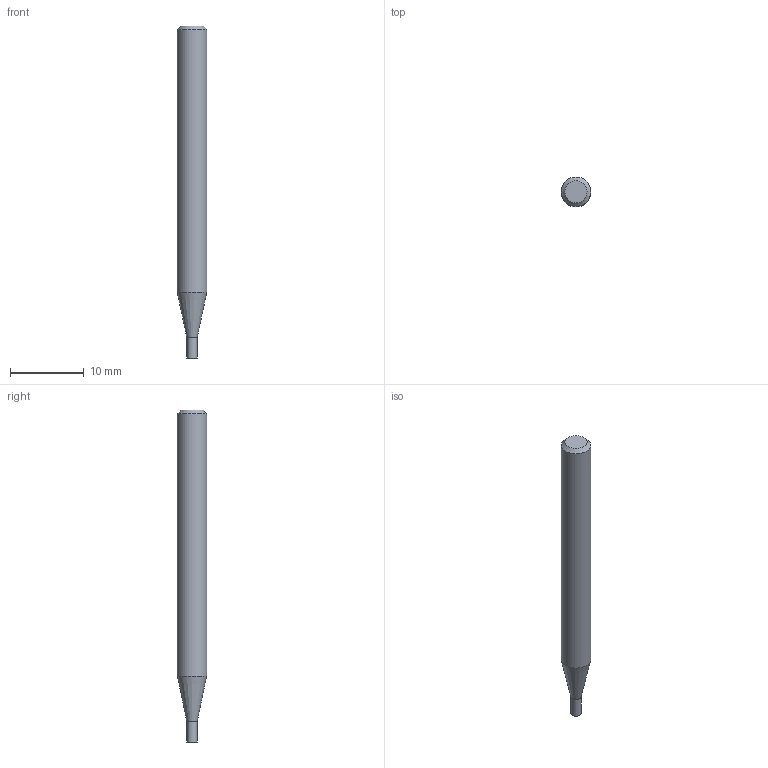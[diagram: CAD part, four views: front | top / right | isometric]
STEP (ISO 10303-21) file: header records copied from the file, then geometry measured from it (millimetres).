
FILE_DESCRIPTION((''),'2;1');
FILE_NAME('C:\Users\nsx150\AppData\Local\Temp\Mastercam 2021\E36A1X9CCL\TEMP.step','2023-04-21T15:12:18',(''),(''),'STEP Write','Mastercam 2021 ... CNC Software, Inc.','');
FILE_SCHEMA(('AUTOMOTIVE_DESIGN'));
Length unit declared in the file: millimetre
Products named in the file (1): None
Bounding box: 4 x 4 x 45 mm (x, y, z)
Volume: 494 mm3; surface area: 532 mm2
Topology: 2 solids, 2 shells, 8 faces, 10 edges, 6 vertices
Faces by surface type: plane 4, cylinder 2, cone 2
Full cylindrical faces by diameter (mm): 1.4 x1, 4 x1
Entity records: 190 total; most frequent: DIRECTION 32, CARTESIAN_POINT 22, AXIS2_PLACEMENT_3D 16, ORIENTED_EDGE 12, EDGE_LOOP 12, STYLED_ITEM 11, ADVANCED_FACE 8, VERTEX_POINT 6
